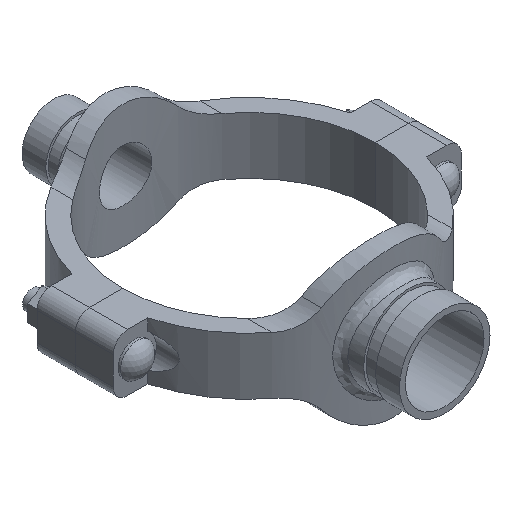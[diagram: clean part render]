
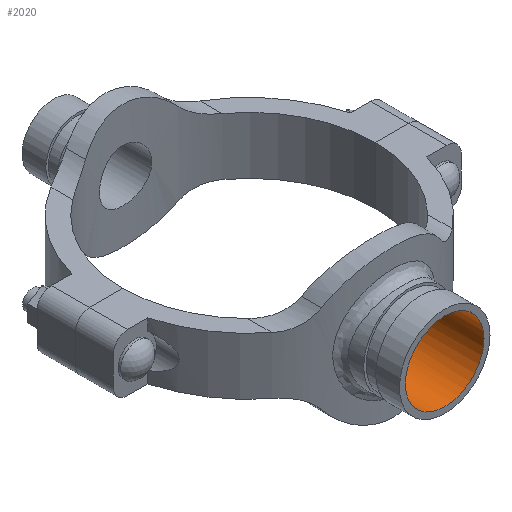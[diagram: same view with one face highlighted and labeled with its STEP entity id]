
A CAD part, isometric view. The second image highlights one B-rep face of the part: STEP entity #2020.
In plain terms, the highlighted cylindrical face has radius 26.194 mm (diameter 52.387 mm), a full revolution.
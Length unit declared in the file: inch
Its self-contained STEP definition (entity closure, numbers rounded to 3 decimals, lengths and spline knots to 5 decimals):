
#52=B_SPLINE_CURVE_WITH_KNOTS('',3,(#4052,#4053,#4054,#4055,#4056,#4057,
#4058,#4059,#4060,#4061,#4062,#4063,#4064,#4065,#4066,#4067,#4068,#4069,
#4070,#4071,#4072,#4073,#4074,#4075,#4076,#4077,#4078,#4079,#4080,#4081,
#4082,#4083,#4084,#4085,#4086,#4087,#4088,#4089,#4090,#4091,#4092,#4093,
#4094,#4095,#4096,#4097,#4098,#4099,#4100,#4101,#4102,#4103,#4104,#4105,
#4106,#4107,#4108,#4109,#4110,#4111,#4112,#4113,#4114,#4115,#4116,#4117),
 .UNSPECIFIED.,.T.,.F.,(4,2,2,2,2,2,2,2,2,2,2,2,2,2,2,2,2,2,2,2,2,2,2,2,
2,2,2,2,2,2,2,2,4),(0.,0.49702,0.99403,1.49105,
1.98806,2.4849,2.98175,3.47859,3.97543,
4.47227,4.96912,5.46596,5.9628,6.45982,
6.95683,7.45385,7.95086,8.44788,8.94489,
9.44191,9.93892,10.43576,10.93261,11.42945,
11.92629,12.42313,12.91998,13.41682,13.91366,
14.41068,14.90769,15.40471,15.90172),
 .UNSPECIFIED.);
#99=CYLINDRICAL_SURFACE('',#2261,1.03125);
#218=FACE_OUTER_BOUND('',#342,.T.);
#342=EDGE_LOOP('',(#1624,#1625,#1626,#1627));
#494=LINE('',#4051,#644);
#644=VECTOR('',#2736,1.03125);
#748=CIRCLE('',#2262,1.03125);
#917=VERTEX_POINT('',#4048);
#918=VERTEX_POINT('',#4050);
#1168=EDGE_CURVE('',#917,#917,#748,.T.);
#1169=EDGE_CURVE('',#917,#918,#494,.T.);
#1170=EDGE_CURVE('',#918,#918,#52,.T.);
#1624=ORIENTED_EDGE('',*,*,#1168,.F.);
#1625=ORIENTED_EDGE('',*,*,#1169,.T.);
#1626=ORIENTED_EDGE('',*,*,#1170,.F.);
#1627=ORIENTED_EDGE('',*,*,#1169,.F.);
#2020=ADVANCED_FACE('',(#218),#99,.F.);
#2261=AXIS2_PLACEMENT_3D('',#4047,#2732,#2733);
#2262=AXIS2_PLACEMENT_3D('',#4049,#2734,#2735);
#2732=DIRECTION('center_axis',(0.,-1.,0.));
#2733=DIRECTION('ref_axis',(-1.,0.,0.));
#2734=DIRECTION('center_axis',(0.,-1.,0.));
#2735=DIRECTION('ref_axis',(-1.,0.,0.));
#2736=DIRECTION('',(0.,-1.,0.));
#4047=CARTESIAN_POINT('Origin',(0.,5.13,0.));
#4048=CARTESIAN_POINT('',(1.03125,5.13,0.));
#4049=CARTESIAN_POINT('Origin',(0.,5.13,0.));
#4050=CARTESIAN_POINT('',(1.03125,3.14788,0.));
#4051=CARTESIAN_POINT('',(1.03125,5.13,0.));
#4052=CARTESIAN_POINT('Ctrl Pts',(1.03125,3.14788,0.));
#4053=CARTESIAN_POINT('Ctrl Pts',(1.03125,3.14788,-0.06523));
#4054=CARTESIAN_POINT('Ctrl Pts',(1.02496,3.14997,-0.13253));
#4055=CARTESIAN_POINT('Ctrl Pts',(0.99865,3.15841,-0.26611));
#4056=CARTESIAN_POINT('Ctrl Pts',(0.97863,3.16476,-0.3324));
#4057=CARTESIAN_POINT('Ctrl Pts',(0.92588,3.18059,-0.45929));
#4058=CARTESIAN_POINT('Ctrl Pts',(0.89311,3.19007,-0.52001));
#4059=CARTESIAN_POINT('Ctrl Pts',(0.81754,3.21027,-0.63219));
#4060=CARTESIAN_POINT('Ctrl Pts',(0.77475,3.22096,-0.68366));
#4061=CARTESIAN_POINT('Ctrl Pts',(0.68367,3.24152,-0.77473));
#4062=CARTESIAN_POINT('Ctrl Pts',(0.63222,3.25211,-0.81753));
#4063=CARTESIAN_POINT('Ctrl Pts',(0.52003,3.27192,-0.8931));
#4064=CARTESIAN_POINT('Ctrl Pts',(0.4593,3.28113,-0.92587));
#4065=CARTESIAN_POINT('Ctrl Pts',(0.33238,3.2964,-0.97863));
#4066=CARTESIAN_POINT('Ctrl Pts',(0.26608,3.30247,-0.99865));
#4067=CARTESIAN_POINT('Ctrl Pts',(0.1325,3.31053,-1.02497));
#4068=CARTESIAN_POINT('Ctrl Pts',(0.0652,3.3125,-1.03125));
#4069=CARTESIAN_POINT('Ctrl Pts',(-0.0652,3.3125,-1.03125));
#4070=CARTESIAN_POINT('Ctrl Pts',(-0.1325,3.31053,-1.02497));
#4071=CARTESIAN_POINT('Ctrl Pts',(-0.26608,3.30247,-0.99865));
#4072=CARTESIAN_POINT('Ctrl Pts',(-0.33238,3.2964,-0.97863));
#4073=CARTESIAN_POINT('Ctrl Pts',(-0.4593,3.28113,-0.92587));
#4074=CARTESIAN_POINT('Ctrl Pts',(-0.52003,3.27192,-0.8931));
#4075=CARTESIAN_POINT('Ctrl Pts',(-0.63222,3.25211,-0.81753));
#4076=CARTESIAN_POINT('Ctrl Pts',(-0.68367,3.24152,-0.77473));
#4077=CARTESIAN_POINT('Ctrl Pts',(-0.77475,3.22096,-0.68366));
#4078=CARTESIAN_POINT('Ctrl Pts',(-0.81754,3.21027,-0.63219));
#4079=CARTESIAN_POINT('Ctrl Pts',(-0.89311,3.19007,-0.52001));
#4080=CARTESIAN_POINT('Ctrl Pts',(-0.92588,3.18059,-0.45929));
#4081=CARTESIAN_POINT('Ctrl Pts',(-0.97863,3.16476,-0.3324));
#4082=CARTESIAN_POINT('Ctrl Pts',(-0.99865,3.15841,-0.26611));
#4083=CARTESIAN_POINT('Ctrl Pts',(-1.02496,3.14997,-0.13253));
#4084=CARTESIAN_POINT('Ctrl Pts',(-1.03125,3.14788,-0.06523));
#4085=CARTESIAN_POINT('Ctrl Pts',(-1.03125,3.14788,0.06523));
#4086=CARTESIAN_POINT('Ctrl Pts',(-1.02496,3.14997,0.13253));
#4087=CARTESIAN_POINT('Ctrl Pts',(-0.99865,3.15841,0.26611));
#4088=CARTESIAN_POINT('Ctrl Pts',(-0.97863,3.16476,0.3324));
#4089=CARTESIAN_POINT('Ctrl Pts',(-0.92588,3.18059,0.45929));
#4090=CARTESIAN_POINT('Ctrl Pts',(-0.89311,3.19007,0.52001));
#4091=CARTESIAN_POINT('Ctrl Pts',(-0.81754,3.21027,0.63219));
#4092=CARTESIAN_POINT('Ctrl Pts',(-0.77475,3.22096,0.68366));
#4093=CARTESIAN_POINT('Ctrl Pts',(-0.68367,3.24152,0.77473));
#4094=CARTESIAN_POINT('Ctrl Pts',(-0.63222,3.25211,0.81753));
#4095=CARTESIAN_POINT('Ctrl Pts',(-0.52003,3.27192,0.8931));
#4096=CARTESIAN_POINT('Ctrl Pts',(-0.4593,3.28113,0.92587));
#4097=CARTESIAN_POINT('Ctrl Pts',(-0.33238,3.2964,0.97863));
#4098=CARTESIAN_POINT('Ctrl Pts',(-0.26608,3.30247,0.99865));
#4099=CARTESIAN_POINT('Ctrl Pts',(-0.1325,3.31053,1.02497));
#4100=CARTESIAN_POINT('Ctrl Pts',(-0.0652,3.3125,1.03125));
#4101=CARTESIAN_POINT('Ctrl Pts',(0.0652,3.3125,1.03125));
#4102=CARTESIAN_POINT('Ctrl Pts',(0.1325,3.31053,1.02497));
#4103=CARTESIAN_POINT('Ctrl Pts',(0.26608,3.30247,0.99865));
#4104=CARTESIAN_POINT('Ctrl Pts',(0.33238,3.2964,0.97863));
#4105=CARTESIAN_POINT('Ctrl Pts',(0.4593,3.28113,0.92587));
#4106=CARTESIAN_POINT('Ctrl Pts',(0.52003,3.27192,0.8931));
#4107=CARTESIAN_POINT('Ctrl Pts',(0.63222,3.25211,0.81753));
#4108=CARTESIAN_POINT('Ctrl Pts',(0.68367,3.24152,0.77473));
#4109=CARTESIAN_POINT('Ctrl Pts',(0.77475,3.22096,0.68366));
#4110=CARTESIAN_POINT('Ctrl Pts',(0.81754,3.21027,0.63219));
#4111=CARTESIAN_POINT('Ctrl Pts',(0.89311,3.19007,0.52001));
#4112=CARTESIAN_POINT('Ctrl Pts',(0.92588,3.18059,0.45929));
#4113=CARTESIAN_POINT('Ctrl Pts',(0.97863,3.16476,0.3324));
#4114=CARTESIAN_POINT('Ctrl Pts',(0.99865,3.15841,0.26611));
#4115=CARTESIAN_POINT('Ctrl Pts',(1.02496,3.14997,0.13253));
#4116=CARTESIAN_POINT('Ctrl Pts',(1.03125,3.14788,0.06523));
#4117=CARTESIAN_POINT('Ctrl Pts',(1.03125,3.14788,0.));
